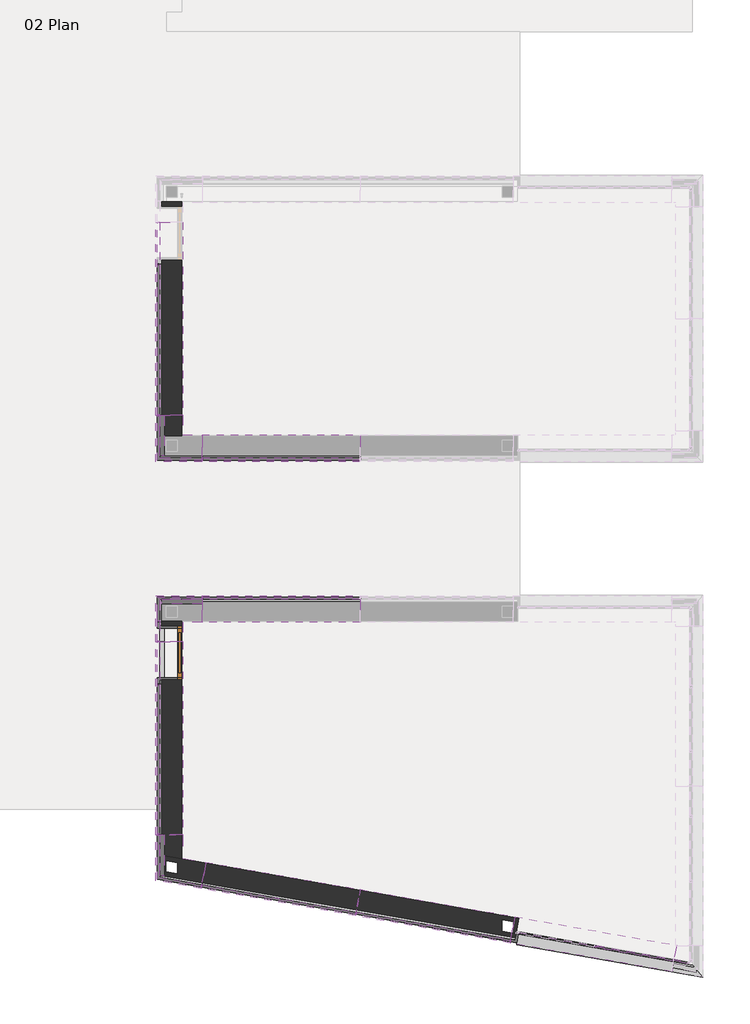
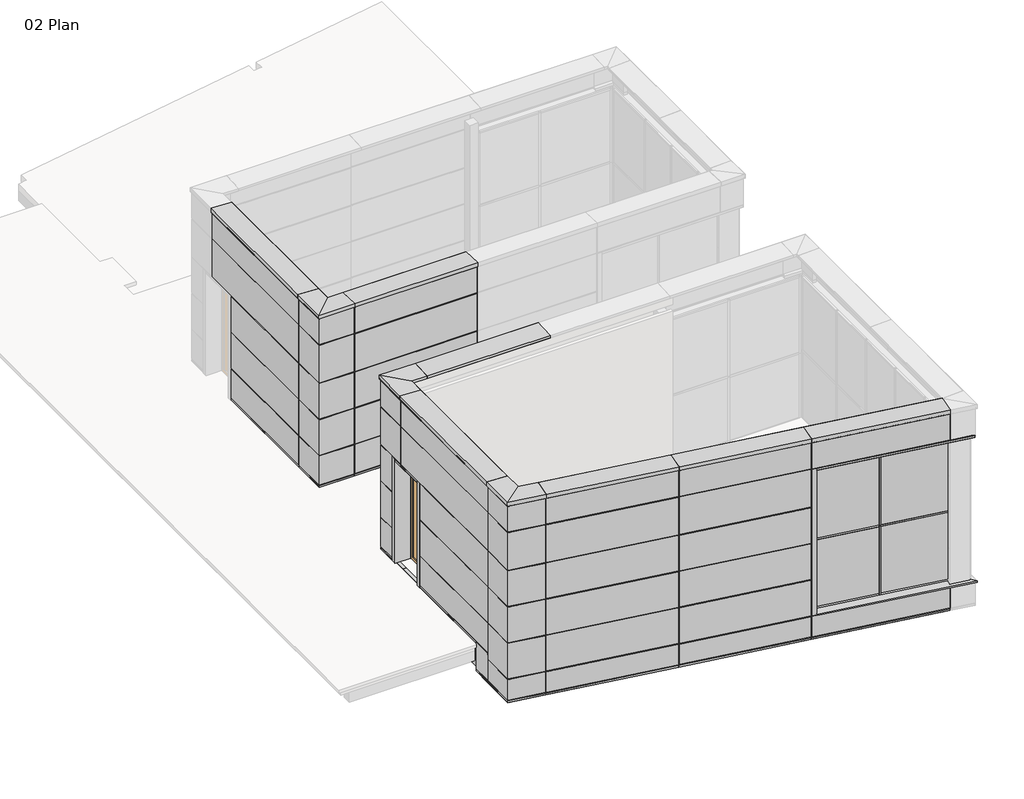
# One storey, part 1 of 6: 83 plates, 5 members, 3 walls, 1 door.
"""IFC4 building model written with IfcOpenShell, lengths in millimetres."""

from ifc_helpers import new_model, si_unit, origin, place, context, project, spatial, faceted_brep, transform, mapped, element, save
from components import door_1100x3068mm_1200x3168mm_a6e2f689, rectangular_mullion_5477e31e, rectangular_mullion_d40b3f67, rectangular_mullion_7ea7b6c0, rectangular_mullion_fe69a189, rectangular_mullion_267ea699, plate_0497feba, plate_c64032ae, plate_0b95a8c3, plate_704d47aa, plate_30a3f86a, plate_63cc7be1, plate_6f84e525, plate_d31895c8, plate_a4e683b8, plate_559b6195, plate_d0c6d3e6, plate_29d679cd, plate_2e54694b, plate_18e4d27f, plate_6c13a71c, plate_abbbe2c7, plate_c2fd8d0c, plate_5f059f00, plate_77bf08a6, plate_66c8b1ed, plate_1f021189, plate_59370a8b, plate_b266ea8f, plate_7cec9b98, plate_5e959410, plate_d173a851, plate_34e137b8, plate_b82644d0, plate_73010683, plate_828074e9, plate_d93fc1ee, empty_system_panel_empty_88f725ae, empty_system_panel_empty_c6afd72d, empty_system_panel_empty_4dfb96b6, empty_system_panel_empty_36c81836, empty_system_panel_empty_630b4419, empty_system_panel_empty_70027ae5, empty_system_panel_empty_0722500c, empty_system_panel_empty_060dda74, empty_system_panel_empty_13eba526, empty_system_panel_empty_2dd24dd9, empty_system_panel_empty_f1e40453, empty_system_panel_empty_2387188b, empty_system_panel_empty_4aabe192, empty_system_panel_empty_150c7ecc, empty_system_panel_empty_65b73787, empty_system_panel_empty_e6763725, empty_system_panel_empty_c0a390db, system_panel_92fbf9bb, system_panel_ff6ce59d, system_panel_211c9268, system_panel_5b1b3f82

model = new_model("IFC4")

# Units and contexts
model_context = context("Model", 3, world=origin())
ifc_project = project(units=[si_unit("LENGTHUNIT", "METRE", prefix="MILLI")], contexts=[model_context])

# Site, building, storey
site = spatial("IfcSite", under=ifc_project)
building = spatial("IfcBuilding", under=site)
storey = spatial("IfcBuildingStorey", under=building, Name="02 Plan", Elevation=0.0)

# Door
placement = place(None, origin())
door_1100x3068mm_1200x3168mm_shape = door_1100x3068mm_1200x3168mm_a6e2f689(model_context)
element("IfcDoor", 1, ObjectType="Door : 1100x3068mm (1200x3168mm)", at=placement, inside=storey, context=model_context, shape_type="MappedRepresentation", body=[
    mapped(door_1100x3068mm_1200x3168mm_shape, transform((-3774.3384937, -7564.4104565, 0.0), x_axis=(0.0, 1.0, 0.0), y_axis=(-1.0, 0.0, 0.0), z_axis=(0.0, 0.0, 1.0))),
])

# Members
rectangular_mullion_shape = rectangular_mullion_5477e31e(model_context)
element("IfcMember", 2, ObjectType="Rectangular Mullion : Mullion_Curtain Wall_Generic Showcase_50x100mm", at=placement, inside=storey, context=model_context, shape_type="MappedRepresentation", body=[
    mapped(rectangular_mullion_shape, transform((5779.3352903, -14227.111819, -100.0), x_axis=(0.0, 0.0, -1.0), y_axis=(0.17364817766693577, 0.9848077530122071, 0.0), z_axis=(0.9848077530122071, -0.17364817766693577, 0.0))),
])
rectangular_mullion_2_shape = rectangular_mullion_d40b3f67(model_context)
element("IfcMember", 3, ObjectType="Rectangular Mullion : Mullion_Curtain Wall_Generic Showcase_50x50mm", at=placement, inside=storey, context=model_context, shape_type="MappedRepresentation", body=[
    mapped(rectangular_mullion_2_shape, transform((5803.9554841, -14231.4530234, -100.0), x_axis=(-0.984807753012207, 0.17364817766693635, 0.0), y_axis=(0.17364817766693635, 0.984807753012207, 0.0), z_axis=(0.0, 0.0, -1.0))),
])
rectangular_mullion_3_shape = rectangular_mullion_7ea7b6c0(model_context)
element("IfcMember", 4, ObjectType="Rectangular Mullion : Mullion_Curtain Wall_Generic Showcase_50x50mm", at=placement, inside=storey, context=model_context, shape_type="MappedRepresentation", body=[
    mapped(rectangular_mullion_3_shape, transform((5803.9554841, -14231.4530234, 2075.0), x_axis=(-0.984807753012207, 0.17364817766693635, 0.0), y_axis=(0.17364817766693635, 0.984807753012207, 0.0), z_axis=(0.0, 0.0, -1.0))),
])
rectangular_mullion_4_shape = rectangular_mullion_fe69a189(model_context)
element("IfcMember", 5, ObjectType="Rectangular Mullion : Mullion_Curtain Wall_Generic Showcase_50x50mm", at=placement, inside=storey, context=model_context, shape_type="MappedRepresentation", body=[
    mapped(rectangular_mullion_4_shape, transform((5828.5756779, -14235.7942279, 2075.0), x_axis=(0.0, 0.0, 1.0), y_axis=(0.17364817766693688, 0.9848077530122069, 0.0), z_axis=(-0.9848077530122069, 0.17364817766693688, 0.0))),
])
rectangular_mullion_5_shape = rectangular_mullion_267ea699(model_context)
element("IfcMember", 6, ObjectType="Rectangular Mullion : Mullion_Curtain Wall_Generic Showcase_50x50mm", at=placement, inside=storey, context=model_context, shape_type="MappedRepresentation", body=[
    mapped(rectangular_mullion_5_shape, transform((5828.5756779, -14235.7942279, 4350.0), x_axis=(0.0, 0.0, 1.0), y_axis=(0.17364817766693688, 0.9848077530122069, 0.0), z_axis=(-0.9848077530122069, 0.17364817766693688, 0.0))),
])

# Plates
plate_shape = plate_0497feba(model_context)
element("IfcPlate", 7, ObjectType="Trimo_Qbiss Screen_L Corner Panel-HORIZONTAL : HR - B", at=placement, inside=storey, context=model_context, shape_type="MappedRepresentation", body=[
    mapped(plate_shape, transform((-3542.0971598, -12685.0344404, -750.0), x_axis=(-0.9848077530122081, 0.1736481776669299, 0.0), y_axis=(-0.1736481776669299, -0.9848077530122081, 0.0), z_axis=(0.0, 0.0, 1.0))),
])
plate_2_shape = plate_c64032ae(model_context)
element("IfcPlate", 8, ObjectType="Trimo_Qbiss Screen_L Corner Panel-HORIZONTAL : HR - B", at=placement, inside=storey, context=model_context, shape_type="MappedRepresentation", body=[
    mapped(plate_2_shape, transform((-3542.0971598, -12685.0344404, -100.0), x_axis=(-0.9848077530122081, 0.1736481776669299, 0.0), y_axis=(-0.1736481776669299, -0.9848077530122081, 0.0), z_axis=(0.0, 0.0, 1.0))),
])
element("IfcPlate", 9, ObjectType="Trimo_Qbiss Screen_L Corner Panel-HORIZONTAL : HR - B", at=placement, inside=storey, context=model_context, shape_type="MappedRepresentation", body=[
    mapped(plate_2_shape, transform((-3542.0971598, -12685.0344404, 1012.5), x_axis=(-0.9848077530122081, 0.1736481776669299, 0.0), y_axis=(-0.1736481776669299, -0.9848077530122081, 0.0), z_axis=(0.0, 0.0, 1.0))),
])
element("IfcPlate", 10, ObjectType="Trimo_Qbiss Screen_L Corner Panel-HORIZONTAL : HR - B", at=placement, inside=storey, context=model_context, shape_type="MappedRepresentation", body=[
    mapped(plate_2_shape, transform((-3542.0971598, -12685.0344404, 2125.0), x_axis=(-0.9848077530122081, 0.1736481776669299, 0.0), y_axis=(-0.1736481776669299, -0.9848077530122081, 0.0), z_axis=(0.0, 0.0, 1.0))),
])
plate_3_shape = plate_0b95a8c3(model_context)
element("IfcPlate", 11, ObjectType="Trimo_Qbiss Screen_L Corner Panel-HORIZONTAL : HR - B", at=placement, inside=storey, context=model_context, shape_type="MappedRepresentation", body=[
    mapped(plate_3_shape, transform((-3999.3384937, -6630.6604565, 1012.5), x_axis=(0.0, 1.0, 0.0), y_axis=(-1.0, 0.0, 0.0), z_axis=(0.0, 0.0, 1.0))),
])
element("IfcPlate", 12, ObjectType="Trimo_Qbiss Screen_L Corner Panel-HORIZONTAL : HR - B", at=placement, inside=storey, context=model_context, shape_type="MappedRepresentation", body=[
    mapped(plate_3_shape, transform((-3999.3384937, -6630.6604565, 2125.0), x_axis=(0.0, 1.0, 0.0), y_axis=(-1.0, 0.0, 0.0), z_axis=(0.0, 0.0, 1.0))),
])
plate_4_shape = plate_704d47aa(model_context)
element("IfcPlate", 13, ObjectType="Trimo_Qbiss Screen_L Corner Panel-HORIZONTAL : HR - B", at=placement, inside=storey, context=model_context, shape_type="MappedRepresentation", body=[
    mapped(plate_4_shape, transform((-3542.0971598, -12685.0344404, 3237.5), x_axis=(-0.9848077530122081, 0.1736481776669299, 0.0), y_axis=(-0.1736481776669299, -0.9848077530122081, 0.0), z_axis=(0.0, 0.0, 1.0))),
])
plate_5_shape = plate_30a3f86a(model_context)
element("IfcPlate", 14, ObjectType="Trimo_Qbiss Screen_L Corner Panel-HORIZONTAL : HR - B", at=placement, inside=storey, context=model_context, shape_type="MappedRepresentation", body=[
    mapped(plate_5_shape, transform((-3542.0971598, -12685.0344404, 4410.0), x_axis=(-0.9848077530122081, 0.1736481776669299, 0.0), y_axis=(-0.1736481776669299, -0.9848077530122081, 0.0), z_axis=(0.0, 0.0, 1.0))),
])
plate_6_shape = plate_63cc7be1(model_context)
element("IfcPlate", 15, ObjectType="Trimo_Qbiss Screen_L Corner Panel-HORIZONTAL : HR - B", at=placement, inside=storey, context=model_context, shape_type="MappedRepresentation", body=[
    mapped(plate_6_shape, transform((-3999.3384937, -6860.6604565, 4410.0), x_axis=(0.0, 1.0, 0.0), y_axis=(-1.0, 0.0, 0.0), z_axis=(0.0, 0.0, 1.0))),
])
plate_7_shape = plate_6f84e525(model_context)
element("IfcPlate", 16, ObjectType="Trimo_Qbiss Screen_L Corner Panel-HORIZONTAL : HR - B", at=placement, inside=storey, context=model_context, shape_type="MappedRepresentation", body=[
    mapped(plate_7_shape, transform((-3999.3384937, -6860.6604565, 3237.5), x_axis=(0.0, 1.0, 0.0), y_axis=(-1.0, 0.0, 0.0), z_axis=(0.0, 0.0, 1.0))),
])
element("IfcPlate", 17, ObjectType="Trimo_Qbiss Screen_L Corner Panel-HORIZONTAL : HR - B", at=placement, inside=storey, context=model_context, shape_type="MappedRepresentation", body=[
    mapped(plate_7_shape, transform((-3543.0884937, -3104.4104565, 3237.5), x_axis=(-1.0, 0.0, 0.0), y_axis=(0.0, -1.0, 0.0), z_axis=(0.0, 0.0, 1.0))),
])
plate_8_shape = plate_d31895c8(model_context)
element("IfcPlate", 18, ObjectType="Trimo_Qbiss Screen_L Corner Panel-HORIZONTAL : HR - B", at=placement, inside=storey, context=model_context, shape_type="MappedRepresentation", body=[
    mapped(plate_8_shape, transform((-3543.0884937, -3104.4104565, 2125.0), x_axis=(-1.0, 0.0, 0.0), y_axis=(0.0, -1.0, 0.0), z_axis=(0.0, 0.0, 1.0))),
])
element("IfcPlate", 19, ObjectType="Trimo_Qbiss Screen_L Corner Panel-HORIZONTAL : HR - B", at=placement, inside=storey, context=model_context, shape_type="MappedRepresentation", body=[
    mapped(plate_8_shape, transform((-3543.0884937, -3104.4104565, 1012.5), x_axis=(-1.0, 0.0, 0.0), y_axis=(0.0, -1.0, 0.0), z_axis=(0.0, 0.0, 1.0))),
])
plate_9_shape = plate_a4e683b8(model_context)
element("IfcPlate", 20, ObjectType="Trimo_Qbiss Screen_L Corner Panel-HORIZONTAL : HR - B", at=placement, inside=storey, context=model_context, shape_type="MappedRepresentation", body=[
    mapped(plate_9_shape, transform((-3999.3384937, -6630.6604565, 100.0), x_axis=(0.0, 1.0, 0.0), y_axis=(-1.0, 0.0, 0.0), z_axis=(0.0, 0.0, 1.0))),
])
plate_10_shape = plate_559b6195(model_context)
element("IfcPlate", 21, ObjectType="Trimo_Qbiss Screen_L Corner Panel-HORIZONTAL : HR - B", at=placement, inside=storey, context=model_context, shape_type="MappedRepresentation", body=[
    mapped(plate_10_shape, transform((-3543.0884937, -3104.4104565, 100.0), x_axis=(-1.0, 0.0, 0.0), y_axis=(0.0, -1.0, 0.0), z_axis=(0.0, 0.0, 1.0))),
])
element("IfcPlate", 22, ObjectType="Trimo_Qbiss Screen_L Corner Panel-HORIZONTAL : HR - B", at=placement, inside=storey, context=model_context, shape_type="MappedRepresentation", body=[
    mapped(plate_6_shape, transform((-3543.0884937, -3104.4104565, 4410.0), x_axis=(-1.0, 0.0, 0.0), y_axis=(0.0, -1.0, 0.0), z_axis=(0.0, 0.0, 1.0))),
])
plate_11_shape = plate_d0c6d3e6(model_context)
element("IfcPlate", 23, ObjectType="Trimo_Qbiss Screen_Normal Panel-HORIZONTAL : HR - B", at=placement, inside=storey, context=model_context, shape_type="MappedRepresentation", body=[
    mapped(plate_11_shape, transform((5735.116969, -14320.8575971, -750.0), x_axis=(-0.9848077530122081, 0.1736481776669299, 0.0), y_axis=(-0.1736481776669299, -0.9848077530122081, 0.0), z_axis=(0.0, 0.0, 1.0))),
])
plate_12_shape = plate_29d679cd(model_context)
element("IfcPlate", 24, ObjectType="Trimo_Qbiss Screen_Normal Panel-HORIZONTAL : HR - B", at=placement, inside=storey, context=model_context, shape_type="MappedRepresentation", body=[
    mapped(plate_12_shape, transform((2157.2681063, -13689.9863097, -750.0), x_axis=(-0.9848077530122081, 0.1736481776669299, 0.0), y_axis=(-0.1736481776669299, -0.9848077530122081, 0.0), z_axis=(0.0, 0.0, 1.0))),
])
element("IfcPlate", 25, ObjectType="Trimo_Qbiss Screen_Normal Panel-HORIZONTAL : HR - B", at=placement, inside=storey, context=model_context, shape_type="MappedRepresentation", body=[
    mapped(plate_12_shape, transform((-1337.4811819, -13073.7677194, -750.0), x_axis=(-0.9848077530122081, 0.1736481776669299, 0.0), y_axis=(-0.1736481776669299, -0.9848077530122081, 0.0), z_axis=(0.0, 0.0, 1.0))),
])
plate_13_shape = plate_2e54694b(model_context)
element("IfcPlate", 26, ObjectType="Trimo_Qbiss Screen_Normal Panel-HORIZONTAL : HR - B", at=placement, inside=storey, context=model_context, shape_type="MappedRepresentation", body=[
    mapped(plate_13_shape, transform((2157.2681063, -13689.9863097, -100.0), x_axis=(-0.9848077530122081, 0.1736481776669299, 0.0), y_axis=(-0.1736481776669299, -0.9848077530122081, 0.0), z_axis=(0.0, 0.0, 1.0))),
])
element("IfcPlate", 27, ObjectType="Trimo_Qbiss Screen_Normal Panel-HORIZONTAL : HR - B", at=placement, inside=storey, context=model_context, shape_type="MappedRepresentation", body=[
    mapped(plate_13_shape, transform((-1337.4811819, -13073.7677194, -100.0), x_axis=(-0.9848077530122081, 0.1736481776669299, 0.0), y_axis=(-0.1736481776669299, -0.9848077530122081, 0.0), z_axis=(0.0, 0.0, 1.0))),
])
element("IfcPlate", 28, ObjectType="Trimo_Qbiss Screen_Normal Panel-HORIZONTAL : HR - B", at=placement, inside=storey, context=model_context, shape_type="MappedRepresentation", body=[
    mapped(plate_13_shape, transform((2157.2681063, -13689.9863097, 2125.0), x_axis=(-0.9848077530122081, 0.1736481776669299, 0.0), y_axis=(-0.1736481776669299, -0.9848077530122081, 0.0), z_axis=(0.0, 0.0, 1.0))),
])
element("IfcPlate", 29, ObjectType="Trimo_Qbiss Screen_Normal Panel-HORIZONTAL : HR - B", at=placement, inside=storey, context=model_context, shape_type="MappedRepresentation", body=[
    mapped(plate_13_shape, transform((-1337.4811819, -13073.7677194, 2125.0), x_axis=(-0.9848077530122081, 0.1736481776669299, 0.0), y_axis=(-0.1736481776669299, -0.9848077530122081, 0.0), z_axis=(0.0, 0.0, 1.0))),
])
element("IfcPlate", 30, ObjectType="Trimo_Qbiss Screen_Normal Panel-HORIZONTAL : HR - B", at=placement, inside=storey, context=model_context, shape_type="MappedRepresentation", body=[
    mapped(plate_13_shape, transform((2157.2681063, -13689.9863097, 1012.5), x_axis=(-0.9848077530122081, 0.1736481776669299, 0.0), y_axis=(-0.1736481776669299, -0.9848077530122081, 0.0), z_axis=(0.0, 0.0, 1.0))),
])
element("IfcPlate", 31, ObjectType="Trimo_Qbiss Screen_Normal Panel-HORIZONTAL : HR - B", at=placement, inside=storey, context=model_context, shape_type="MappedRepresentation", body=[
    mapped(plate_13_shape, transform((-1337.4811819, -13073.7677194, 1012.5), x_axis=(-0.9848077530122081, 0.1736481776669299, 0.0), y_axis=(-0.1736481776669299, -0.9848077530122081, 0.0), z_axis=(0.0, 0.0, 1.0))),
])
plate_14_shape = plate_18e4d27f(model_context)
element("IfcPlate", 32, ObjectType="Trimo_Qbiss Screen_Normal Panel-HORIZONTAL : HR - B", at=placement, inside=storey, context=model_context, shape_type="MappedRepresentation", body=[
    mapped(plate_14_shape, transform((2157.2681063, -13689.9863097, 4410.0), x_axis=(-0.9848077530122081, 0.1736481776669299, 0.0), y_axis=(-0.1736481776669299, -0.9848077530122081, 0.0), z_axis=(0.0, 0.0, 1.0))),
])
element("IfcPlate", 33, ObjectType="Trimo_Qbiss Screen_Normal Panel-HORIZONTAL : HR - B", at=placement, inside=storey, context=model_context, shape_type="MappedRepresentation", body=[
    mapped(plate_14_shape, transform((-1337.4811819, -13073.7677194, 4410.0), x_axis=(-0.9848077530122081, 0.1736481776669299, 0.0), y_axis=(-0.1736481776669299, -0.9848077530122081, 0.0), z_axis=(0.0, 0.0, 1.0))),
])
plate_15_shape = plate_6c13a71c(model_context)
element("IfcPlate", 34, ObjectType="Trimo_Qbiss Screen_Normal Panel-HORIZONTAL : HR - B", at=placement, inside=storey, context=model_context, shape_type="MappedRepresentation", body=[
    mapped(plate_15_shape, transform((5735.116969, -14320.8575971, 4410.0), x_axis=(-0.9848077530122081, 0.1736481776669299, 0.0), y_axis=(-0.1736481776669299, -0.9848077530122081, 0.0), z_axis=(0.0, 0.0, 1.0))),
])
plate_16_shape = plate_abbbe2c7(model_context)
element("IfcPlate", 35, ObjectType="Trimo_Qbiss Screen_Normal Panel-HORIZONTAL : HR - B", at=placement, inside=storey, context=model_context, shape_type="MappedRepresentation", body=[
    mapped(plate_16_shape, transform((2157.2681063, -13689.9863097, 3237.5), x_axis=(-0.9848077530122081, 0.1736481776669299, 0.0), y_axis=(-0.1736481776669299, -0.9848077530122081, 0.0), z_axis=(0.0, 0.0, 1.0))),
])
element("IfcPlate", 36, ObjectType="Trimo_Qbiss Screen_Normal Panel-HORIZONTAL : HR - B", at=placement, inside=storey, context=model_context, shape_type="MappedRepresentation", body=[
    mapped(plate_16_shape, transform((-1337.4811819, -13073.7677194, 3237.5), x_axis=(-0.9848077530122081, 0.1736481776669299, 0.0), y_axis=(-0.1736481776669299, -0.9848077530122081, 0.0), z_axis=(0.0, 0.0, 1.0))),
])
plate_17_shape = plate_c2fd8d0c(model_context)
element("IfcPlate", 37, ObjectType="Trimo_Qbiss Screen_Normal Panel-HORIZONTAL : HR - B", at=placement, inside=storey, context=model_context, shape_type="MappedRepresentation", body=[
    mapped(plate_17_shape, transform((-3999.3384937, -11365.1154381, -750.0), x_axis=(0.0, 1.0, 0.0), y_axis=(-1.0, 0.0, 0.0), z_axis=(0.0, 0.0, 1.0))),
])
plate_18_shape = plate_5f059f00(model_context)
element("IfcPlate", 38, ObjectType="Trimo_Qbiss Screen_Normal Panel-HORIZONTAL : HR - B", at=placement, inside=storey, context=model_context, shape_type="MappedRepresentation", body=[
    mapped(plate_18_shape, transform((-3999.3384937, -9973.8654381, 100.0), x_axis=(0.0, 1.0, 0.0), y_axis=(-1.0, 0.0, 0.0), z_axis=(0.0, 0.0, 1.0))),
])
plate_19_shape = plate_77bf08a6(model_context)
element("IfcPlate", 39, ObjectType="Trimo_Qbiss Screen_Normal Panel-HORIZONTAL : HR - B", at=placement, inside=storey, context=model_context, shape_type="MappedRepresentation", body=[
    mapped(plate_19_shape, transform((-3999.3384937, -9496.3654381, 4410.0), x_axis=(0.0, 1.0, 0.0), y_axis=(-1.0, 0.0, 0.0), z_axis=(0.0, 0.0, 1.0))),
])
plate_20_shape = plate_66c8b1ed(model_context)
element("IfcPlate", 40, ObjectType="Trimo_Qbiss Screen_Normal Panel-HORIZONTAL : HR - B", at=placement, inside=storey, context=model_context, shape_type="MappedRepresentation", body=[
    mapped(plate_20_shape, transform((-1299.3384937, -6404.4104565, 100.0), x_axis=(1.0, 0.0, 0.0), y_axis=(0.0, 1.0, 0.0), z_axis=(0.0, 0.0, 1.0))),
])
element("IfcPlate", 41, ObjectType="Trimo_Qbiss Screen_Normal Panel-HORIZONTAL : HR - B", at=placement, inside=storey, context=model_context, shape_type="MappedRepresentation", body=[
    mapped(plate_20_shape, transform((-1299.3384937, -3104.4104565, 100.0), x_axis=(-1.0, 0.0, 0.0), y_axis=(0.0, -1.0, 0.0), z_axis=(0.0, 0.0, 1.0))),
])
plate_21_shape = plate_1f021189(model_context)
element("IfcPlate", 42, ObjectType="Trimo_Qbiss Screen_Normal Panel-HORIZONTAL : HR - B", at=placement, inside=storey, context=model_context, shape_type="MappedRepresentation", body=[
    mapped(plate_21_shape, transform((-1299.3384937, -6404.4104565, 4410.0), x_axis=(1.0, 0.0, 0.0), y_axis=(0.0, 1.0, 0.0), z_axis=(0.0, 0.0, 1.0))),
])
element("IfcPlate", 43, ObjectType="Trimo_Qbiss Screen_Normal Panel-HORIZONTAL : HR - B", at=placement, inside=storey, context=model_context, shape_type="MappedRepresentation", body=[
    mapped(plate_21_shape, transform((-1299.3384937, -3104.4104565, 4410.0), x_axis=(-1.0, 0.0, 0.0), y_axis=(0.0, -1.0, 0.0), z_axis=(0.0, 0.0, 1.0))),
])
plate_22_shape = plate_59370a8b(model_context)
element("IfcPlate", 44, ObjectType="Trimo_Qbiss Screen_Normal Panel-HORIZONTAL : HR - B", at=placement, inside=storey, context=model_context, shape_type="MappedRepresentation", body=[
    mapped(plate_22_shape, transform((-3999.3384937, -9496.3654381, 3237.5), x_axis=(0.0, 1.0, 0.0), y_axis=(-1.0, 0.0, 0.0), z_axis=(0.0, 0.0, 1.0))),
])
plate_23_shape = plate_b266ea8f(model_context)
element("IfcPlate", 45, ObjectType="Trimo_Qbiss Screen_Normal Panel-HORIZONTAL : HR - B", at=placement, inside=storey, context=model_context, shape_type="MappedRepresentation", body=[
    mapped(plate_23_shape, transform((-3999.3384937, -9973.8654381, 2125.0), x_axis=(0.0, 1.0, 0.0), y_axis=(-1.0, 0.0, 0.0), z_axis=(0.0, 0.0, 1.0))),
])
element("IfcPlate", 46, ObjectType="Trimo_Qbiss Screen_Normal Panel-HORIZONTAL : HR - B", at=placement, inside=storey, context=model_context, shape_type="MappedRepresentation", body=[
    mapped(plate_23_shape, transform((-3999.3384937, -9973.8654381, 1012.5), x_axis=(0.0, 1.0, 0.0), y_axis=(-1.0, 0.0, 0.0), z_axis=(0.0, 0.0, 1.0))),
])
plate_24_shape = plate_7cec9b98(model_context)
element("IfcPlate", 47, ObjectType="Trimo_Qbiss Screen_Normal Panel-HORIZONTAL : HR - B", at=placement, inside=storey, context=model_context, shape_type="MappedRepresentation", body=[
    mapped(plate_24_shape, transform((-1299.3384937, -6404.4104565, 3237.5), x_axis=(1.0, 0.0, 0.0), y_axis=(0.0, 1.0, 0.0), z_axis=(0.0, 0.0, 1.0))),
])
element("IfcPlate", 48, ObjectType="Trimo_Qbiss Screen_Normal Panel-HORIZONTAL : HR - B", at=placement, inside=storey, context=model_context, shape_type="MappedRepresentation", body=[
    mapped(plate_24_shape, transform((-1299.3384937, -3104.4104565, 3237.5), x_axis=(-1.0, 0.0, 0.0), y_axis=(0.0, -1.0, 0.0), z_axis=(0.0, 0.0, 1.0))),
])
plate_25_shape = plate_5e959410(model_context)
element("IfcPlate", 49, ObjectType="Trimo_Qbiss Screen_Normal Panel-HORIZONTAL : HR - B", at=placement, inside=storey, context=model_context, shape_type="MappedRepresentation", body=[
    mapped(plate_25_shape, transform((-1299.3384937, -6404.4104565, 2125.0), x_axis=(1.0, 0.0, 0.0), y_axis=(0.0, 1.0, 0.0), z_axis=(0.0, 0.0, 1.0))),
])
element("IfcPlate", 50, ObjectType="Trimo_Qbiss Screen_Normal Panel-HORIZONTAL : HR - B", at=placement, inside=storey, context=model_context, shape_type="MappedRepresentation", body=[
    mapped(plate_25_shape, transform((-1299.3384937, -6404.4104565, 1012.5), x_axis=(1.0, 0.0, 0.0), y_axis=(0.0, 1.0, 0.0), z_axis=(0.0, 0.0, 1.0))),
])
element("IfcPlate", 51, ObjectType="Trimo_Qbiss Screen_Normal Panel-HORIZONTAL : HR - B", at=placement, inside=storey, context=model_context, shape_type="MappedRepresentation", body=[
    mapped(plate_25_shape, transform((-1299.3384937, -3104.4104565, 1012.5), x_axis=(-1.0, 0.0, 0.0), y_axis=(0.0, -1.0, 0.0), z_axis=(0.0, 0.0, 1.0))),
])
element("IfcPlate", 52, ObjectType="Trimo_Qbiss Screen_Normal Panel-HORIZONTAL : HR - B", at=placement, inside=storey, context=model_context, shape_type="MappedRepresentation", body=[
    mapped(plate_25_shape, transform((-1299.3384937, -3104.4104565, 2125.0), x_axis=(-1.0, 0.0, 0.0), y_axis=(0.0, -1.0, 0.0), z_axis=(0.0, 0.0, 1.0))),
])
plate_26_shape = plate_d173a851(model_context)
element("IfcPlate", 53, ObjectType="Trimo_Qbiss Screen_Normal Panel-HORIZONTAL : HR - B", at=placement, inside=storey, context=model_context, shape_type="MappedRepresentation", body=[
    mapped(plate_26_shape, transform((-3999.3384937, -481.9104565, 100.0), x_axis=(0.0, 1.0, 0.0), y_axis=(-1.0, 0.0, 0.0), z_axis=(0.0, 0.0, 1.0))),
])
plate_27_shape = plate_34e137b8(model_context)
element("IfcPlate", 54, ObjectType="Trimo_Qbiss Screen_Normal Panel-HORIZONTAL : HR - B", at=placement, inside=storey, context=model_context, shape_type="MappedRepresentation", body=[
    mapped(plate_27_shape, transform((-3999.3384937, -481.9104565, 1012.5), x_axis=(0.0, 1.0, 0.0), y_axis=(-1.0, 0.0, 0.0), z_axis=(0.0, 0.0, 1.0))),
])
element("IfcPlate", 55, ObjectType="Trimo_Qbiss Screen_Normal Panel-HORIZONTAL : HR - B", at=placement, inside=storey, context=model_context, shape_type="MappedRepresentation", body=[
    mapped(plate_27_shape, transform((-3999.3384937, -481.9104565, 2125.0), x_axis=(0.0, 1.0, 0.0), y_axis=(-1.0, 0.0, 0.0), z_axis=(0.0, 0.0, 1.0))),
])
plate_28_shape = plate_b82644d0(model_context)
element("IfcPlate", 56, ObjectType="Trimo_Qbiss Screen_Normal Panel-HORIZONTAL : HR - B", at=placement, inside=storey, context=model_context, shape_type="MappedRepresentation", body=[
    mapped(plate_28_shape, transform((-3999.3384937, -4.4104565, 3237.5), x_axis=(0.0, 1.0, 0.0), y_axis=(-1.0, 0.0, 0.0), z_axis=(0.0, 0.0, 1.0))),
])
plate_29_shape = plate_73010683(model_context)
element("IfcPlate", 57, ObjectType="Trimo_Qbiss Screen_Normal Panel-HORIZONTAL : HR - B", at=placement, inside=storey, context=model_context, shape_type="MappedRepresentation", body=[
    mapped(plate_29_shape, transform((-3999.3384937, -4.4104565, 4410.0), x_axis=(0.0, 1.0, 0.0), y_axis=(-1.0, 0.0, 0.0), z_axis=(0.0, 0.0, 1.0))),
])
plate_30_shape = plate_828074e9(model_context)
element("IfcPlate", 58, ObjectType="Trimo_Qbiss Screen_Wall Opening Trims-HORIZONTAL : HR - B", at=placement, inside=storey, context=model_context, shape_type="MappedRepresentation", body=[
    mapped(plate_30_shape, transform((5735.116969, -14320.8575971, -100.0), x_axis=(-0.9848077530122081, 0.1736481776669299, 0.0), y_axis=(-0.1736481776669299, -0.9848077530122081, 0.0), z_axis=(0.0, 0.0, 1.0))),
])
plate_31_shape = plate_d93fc1ee(model_context)
element("IfcPlate", 59, ObjectType="Trimo_Qbiss Screen_Wall Opening Trims-HORIZONTAL : HR - B", at=placement, inside=storey, context=model_context, shape_type="MappedRepresentation", body=[
    mapped(plate_31_shape, transform((-3999.3384937, -7564.4104565, 0.0), x_axis=(0.0, 1.0, 0.0), y_axis=(-1.0, 0.0, 0.0), z_axis=(0.0, 0.0, 1.0))),
])
empty_system_panel_empty_shape = empty_system_panel_empty_88f725ae(model_context)
element("IfcPlate", 60, ObjectType="Empty System Panel : Empty", at=placement, inside=storey, context=model_context, shape_type="MappedRepresentation", body=[
    mapped(empty_system_panel_empty_shape, transform((-3999.3384937, -12140.1154381, 100.0), x_axis=(0.0, 1.0, 0.0), y_axis=(-1.0, 0.0, 0.0), z_axis=(0.0, 0.0, 1.0))),
])
empty_system_panel_empty_2_shape = empty_system_panel_empty_c6afd72d(model_context)
element("IfcPlate", 61, ObjectType="Empty System Panel : Empty", at=placement, inside=storey, context=model_context, shape_type="MappedRepresentation", body=[
    mapped(empty_system_panel_empty_2_shape, transform((-3999.3384937, -12140.1154381, 2125.0), x_axis=(0.0, 1.0, 0.0), y_axis=(-1.0, 0.0, 0.0), z_axis=(0.0, 0.0, 1.0))),
])
element("IfcPlate", 62, ObjectType="Empty System Panel : Empty", at=placement, inside=storey, context=model_context, shape_type="MappedRepresentation", body=[
    mapped(empty_system_panel_empty_2_shape, transform((-3999.3384937, -12140.1154381, 1012.5), x_axis=(0.0, 1.0, 0.0), y_axis=(-1.0, 0.0, 0.0), z_axis=(0.0, 0.0, 1.0))),
])
empty_system_panel_empty_3_shape = empty_system_panel_empty_4dfb96b6(model_context)
element("IfcPlate", 63, ObjectType="Empty System Panel : Empty", at=placement, inside=storey, context=model_context, shape_type="MappedRepresentation", body=[
    mapped(empty_system_panel_empty_3_shape, transform((-3543.0884937, -6404.4104565, 2125.0), x_axis=(1.0, 0.0, 0.0), y_axis=(0.0, 1.0, 0.0), z_axis=(0.0, 0.0, 1.0))),
])
element("IfcPlate", 64, ObjectType="Empty System Panel : Empty", at=placement, inside=storey, context=model_context, shape_type="MappedRepresentation", body=[
    mapped(empty_system_panel_empty_3_shape, transform((-3543.0884937, -6404.4104565, 1012.5), x_axis=(1.0, 0.0, 0.0), y_axis=(0.0, 1.0, 0.0), z_axis=(0.0, 0.0, 1.0))),
])
element("IfcPlate", 65, ObjectType="Empty System Panel : Empty", at=placement, inside=storey, context=model_context, shape_type="MappedRepresentation", body=[
    mapped(empty_system_panel_empty_3_shape, transform((-3999.3384937, -2648.1604565, 2125.0), x_axis=(0.0, 1.0, 0.0), y_axis=(-1.0, 0.0, 0.0), z_axis=(0.0, 0.0, 1.0))),
])
element("IfcPlate", 66, ObjectType="Empty System Panel : Empty", at=placement, inside=storey, context=model_context, shape_type="MappedRepresentation", body=[
    mapped(empty_system_panel_empty_3_shape, transform((-3999.3384937, -2648.1604565, 1012.5), x_axis=(0.0, 1.0, 0.0), y_axis=(-1.0, 0.0, 0.0), z_axis=(0.0, 0.0, 1.0))),
])
empty_system_panel_empty_4_shape = empty_system_panel_empty_36c81836(model_context)
element("IfcPlate", 67, ObjectType="Empty System Panel : Empty", at=placement, inside=storey, context=model_context, shape_type="MappedRepresentation", body=[
    mapped(empty_system_panel_empty_4_shape, transform((-3999.3384937, -2648.1604565, 100.0), x_axis=(0.0, 1.0, 0.0), y_axis=(-1.0, 0.0, 0.0), z_axis=(0.0, 0.0, 1.0))),
])
element("IfcPlate", 68, ObjectType="Empty System Panel : Empty", at=placement, inside=storey, context=model_context, shape_type="MappedRepresentation", body=[
    mapped(empty_system_panel_empty_4_shape, transform((-3543.0884937, -6404.4104565, 100.0), x_axis=(1.0, 0.0, 0.0), y_axis=(0.0, 1.0, 0.0), z_axis=(0.0, 0.0, 1.0))),
])
empty_system_panel_empty_5_shape = empty_system_panel_empty_630b4419(model_context)
element("IfcPlate", 69, ObjectType="Empty System Panel : Empty", at=placement, inside=storey, context=model_context, shape_type="MappedRepresentation", body=[
    mapped(empty_system_panel_empty_5_shape, transform((-3543.0884937, -6404.4104565, -750.0), x_axis=(1.0, 0.0, 0.0), y_axis=(0.0, 1.0, 0.0), z_axis=(0.0, 0.0, 1.0))),
])
element("IfcPlate", 70, ObjectType="Empty System Panel : Empty", at=placement, inside=storey, context=model_context, shape_type="MappedRepresentation", body=[
    mapped(empty_system_panel_empty_5_shape, transform((-3543.0884937, -3104.4104565, -750.0), x_axis=(-1.0, 0.0, 0.0), y_axis=(0.0, -1.0, 0.0), z_axis=(0.0, 0.0, 1.0))),
])
empty_system_panel_empty_6_shape = empty_system_panel_empty_70027ae5(model_context)
element("IfcPlate", 71, ObjectType="Empty System Panel : Empty", at=placement, inside=storey, context=model_context, shape_type="MappedRepresentation", body=[
    mapped(empty_system_panel_empty_6_shape, transform((-3543.0884937, -6404.4104565, 4410.0), x_axis=(1.0, 0.0, 0.0), y_axis=(0.0, 1.0, 0.0), z_axis=(0.0, 0.0, 1.0))),
])
element("IfcPlate", 72, ObjectType="Empty System Panel : Empty", at=placement, inside=storey, context=model_context, shape_type="MappedRepresentation", body=[
    mapped(empty_system_panel_empty_6_shape, transform((-3999.3384937, -2648.1604565, 4410.0), x_axis=(0.0, 1.0, 0.0), y_axis=(-1.0, 0.0, 0.0), z_axis=(0.0, 0.0, 1.0))),
])
empty_system_panel_empty_7_shape = empty_system_panel_empty_0722500c(model_context)
element("IfcPlate", 73, ObjectType="Empty System Panel : Empty", at=placement, inside=storey, context=model_context, shape_type="MappedRepresentation", body=[
    mapped(empty_system_panel_empty_7_shape, transform((-3543.0884937, -6404.4104565, 3237.5), x_axis=(1.0, 0.0, 0.0), y_axis=(0.0, 1.0, 0.0), z_axis=(0.0, 0.0, 1.0))),
])
element("IfcPlate", 74, ObjectType="Empty System Panel : Empty", at=placement, inside=storey, context=model_context, shape_type="MappedRepresentation", body=[
    mapped(empty_system_panel_empty_7_shape, transform((-3999.3384937, -2648.1604565, 3237.5), x_axis=(0.0, 1.0, 0.0), y_axis=(-1.0, 0.0, 0.0), z_axis=(0.0, 0.0, 1.0))),
])
empty_system_panel_empty_8_shape = empty_system_panel_empty_060dda74(model_context)
element("IfcPlate", 75, ObjectType="Empty System Panel : Empty", at=placement, inside=storey, context=model_context, shape_type="MappedRepresentation", body=[
    mapped(empty_system_panel_empty_8_shape, transform((-3999.3384937, -12140.1154381, 4410.0), x_axis=(0.0, 1.0, 0.0), y_axis=(-1.0, 0.0, 0.0), z_axis=(0.0, 0.0, 1.0))),
])
empty_system_panel_empty_9_shape = empty_system_panel_empty_13eba526(model_context)
element("IfcPlate", 76, ObjectType="Empty System Panel : Empty", at=placement, inside=storey, context=model_context, shape_type="MappedRepresentation", body=[
    mapped(empty_system_panel_empty_9_shape, transform((-3999.3384937, -12140.1154381, 3237.5), x_axis=(0.0, 1.0, 0.0), y_axis=(-1.0, 0.0, 0.0), z_axis=(0.0, 0.0, 1.0))),
])
empty_system_panel_empty_10_shape = empty_system_panel_empty_2dd24dd9(model_context)
element("IfcPlate", 77, ObjectType="Empty System Panel : Empty", at=placement, inside=storey, context=model_context, shape_type="MappedRepresentation", body=[
    mapped(empty_system_panel_empty_10_shape, transform((-3999.3384937, -12140.1154381, -750.0), x_axis=(0.0, 1.0, 0.0), y_axis=(-1.0, 0.0, 0.0), z_axis=(0.0, 0.0, 1.0))),
])
empty_system_panel_empty_11_shape = empty_system_panel_empty_f1e40453(model_context)
element("IfcPlate", 78, ObjectType="Empty System Panel : Empty", at=placement, inside=storey, context=model_context, shape_type="MappedRepresentation", body=[
    mapped(empty_system_panel_empty_11_shape, transform((-3999.3384937, -9663.1604565, -750.0), x_axis=(0.0, 1.0, 0.0), y_axis=(-1.0, 0.0, 0.0), z_axis=(0.0, 0.0, 1.0))),
])
empty_system_panel_empty_12_shape = empty_system_panel_empty_2387188b(model_context)
element("IfcPlate", 79, ObjectType="Empty System Panel : Empty", at=placement, inside=storey, context=model_context, shape_type="MappedRepresentation", body=[
    mapped(empty_system_panel_empty_12_shape, transform((-3999.3384937, -6860.6604565, -750.0), x_axis=(0.0, 1.0, 0.0), y_axis=(-1.0, 0.0, 0.0), z_axis=(0.0, 0.0, 1.0))),
])
empty_system_panel_empty_13_shape = empty_system_panel_empty_4aabe192(model_context)
element("IfcPlate", 80, ObjectType="Empty System Panel : Empty", at=placement, inside=storey, context=model_context, shape_type="MappedRepresentation", body=[
    mapped(empty_system_panel_empty_13_shape, transform((-3999.3384937, -12140.1154381, 0.0), x_axis=(0.0, 1.0, 0.0), y_axis=(-1.0, 0.0, 0.0), z_axis=(0.0, 0.0, 1.0))),
])
empty_system_panel_empty_14_shape = empty_system_panel_empty_150c7ecc(model_context)
element("IfcPlate", 81, ObjectType="Empty System Panel : Empty", at=placement, inside=storey, context=model_context, shape_type="MappedRepresentation", body=[
    mapped(empty_system_panel_empty_14_shape, transform((-3999.3384937, -9663.1604565, 0.0), x_axis=(0.0, 1.0, 0.0), y_axis=(-1.0, 0.0, 0.0), z_axis=(0.0, 0.0, 1.0))),
])
empty_system_panel_empty_15_shape = empty_system_panel_empty_65b73787(model_context)
element("IfcPlate", 82, ObjectType="Empty System Panel : Empty", at=placement, inside=storey, context=model_context, shape_type="MappedRepresentation", body=[
    mapped(empty_system_panel_empty_15_shape, transform((-3999.3384937, -6630.6604565, 0.0), x_axis=(0.0, 1.0, 0.0), y_axis=(-1.0, 0.0, 0.0), z_axis=(0.0, 0.0, 1.0))),
])
empty_system_panel_empty_16_shape = empty_system_panel_empty_e6763725(model_context)
element("IfcPlate", 83, ObjectType="Empty System Panel : Empty", at=placement, inside=storey, context=model_context, shape_type="MappedRepresentation", body=[
    mapped(empty_system_panel_empty_16_shape, transform((-3999.3384937, -7794.4104565, -750.0), x_axis=(0.0, 1.0, 0.0), y_axis=(-1.0, 0.0, 0.0), z_axis=(0.0, 0.0, 1.0))),
])
empty_system_panel_empty_17_shape = empty_system_panel_empty_c0a390db(model_context)
element("IfcPlate", 84, ObjectType="Empty System Panel : Empty", at=placement, inside=storey, context=model_context, shape_type="MappedRepresentation", body=[
    mapped(empty_system_panel_empty_17_shape, transform((-1299.3384937, -6404.4104565, -750.0), x_axis=(1.0, 0.0, 0.0), y_axis=(0.0, 1.0, 0.0), z_axis=(0.0, 0.0, 1.0))),
])
element("IfcPlate", 85, ObjectType="Empty System Panel : Empty", at=placement, inside=storey, context=model_context, shape_type="MappedRepresentation", body=[
    mapped(empty_system_panel_empty_17_shape, transform((-1299.3384937, -3104.4104565, -750.0), x_axis=(-1.0, 0.0, 0.0), y_axis=(0.0, -1.0, 0.0), z_axis=(0.0, 0.0, 1.0))),
])
system_panel_shape = system_panel_92fbf9bb(model_context)
element("IfcPlate", 86, ObjectType="System Panel : Panel_Glazed_Generic Showcase_30mm", at=placement, inside=storey, context=model_context, shape_type="MappedRepresentation", body=[
    mapped(system_panel_shape, transform((4923.301001, -14076.1698774, 0.0), x_axis=(-0.984807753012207, 0.17364817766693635, 0.0), y_axis=(-0.17364817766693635, -0.984807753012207, 0.0), z_axis=(0.0, 0.0, 1.0))),
])
system_panel_2_shape = system_panel_ff6ce59d(model_context)
element("IfcPlate", 87, ObjectType="System Panel : Panel_Glazed_Generic Showcase_30mm", at=placement, inside=storey, context=model_context, shape_type="MappedRepresentation", body=[
    mapped(system_panel_2_shape, transform((4923.301001, -14076.1698774, 2100.0), x_axis=(-0.984807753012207, 0.17364817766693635, 0.0), y_axis=(-0.17364817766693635, -0.984807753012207, 0.0), z_axis=(0.0, 0.0, 1.0))),
])
system_panel_3_shape = system_panel_211c9268(model_context)
element("IfcPlate", 88, ObjectType="System Panel : Panel_Glazed_Generic Showcase_30mm", at=placement, inside=storey, context=model_context, shape_type="MappedRepresentation", body=[
    mapped(system_panel_3_shape, transform((6860.6571938, -14417.7780454, 0.0), x_axis=(-0.984807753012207, 0.17364817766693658, 0.0), y_axis=(-0.17364817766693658, -0.984807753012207, 0.0), z_axis=(0.0, 0.0, 1.0))),
])
system_panel_4_shape = system_panel_5b1b3f82(model_context)
element("IfcPlate", 89, ObjectType="System Panel : Panel_Glazed_Generic Showcase_30mm", at=placement, inside=storey, context=model_context, shape_type="MappedRepresentation", body=[
    mapped(system_panel_4_shape, transform((6860.6571938, -14417.7780454, 2100.0), x_axis=(-0.984807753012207, 0.17364817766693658, 0.0), y_axis=(-0.17364817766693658, -0.984807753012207, 0.0), z_axis=(0.0, 0.0, 1.0))),
])

# Walls
element("IfcWall", 90, ObjectType="Wall_Exterior_Generic Showcase_450mm", at=placement, inside=storey, context=model_context, shape_type="Brep", body=[
    faceted_brep([(-3549.3384937, 2645.5895435, 5300.0), (-3549.3384937, -2654.4104565, 5300.0), (-3549.3384937, -2654.4104565, 5000.0), (-3549.3384937, 2645.5895435, 5000.0), (-3549.3384937, -2654.4104565, 4800.0), (-3549.3384937, -2654.4104565, 0.0), (-3549.3384937, -2654.4104565, -100.0), (-3549.3384937, 1325.5895435, -100.0), (-3549.3384937, 1325.5895435, 0.0), (-3549.3384937, 1325.5895435, 3178.0), (-3549.3384937, 2545.5895435, 3178.0), (-3549.3384937, 2545.5895435, 0.0), (-3549.3384937, 2545.5895435, -100.0), (-3549.3384937, 2645.5895435, -100.0), (-3549.3384937, 2645.5895435, 0.0), (-3549.3384937, 2645.5895435, 4800.0), (-3999.3384937, -2654.4104565, 100.0), (-3999.3384937, -2654.4104565, 5300.0), (-3999.3384937, 2645.5895435, 5300.0), (-3999.3384937, 2645.5895435, 100.0), (-3999.3384937, 2545.5895435, 100.0), (-3999.3384937, 2545.5895435, 3178.0), (-3999.3384937, 1325.5895435, 3178.0), (-3999.3384937, 1325.5895435, 100.0), (-3899.3384937, -2654.4104565, 100.0), (-3899.3384937, -2654.4104565, 0.0), (-3899.3384937, -2654.4104565, -100.0), (-3649.3384937, -2654.4104565, 4800.0), (-3649.3384937, -2654.4104565, 4400.0), (-3899.3384937, -2654.4104565, 4400.0), (-3899.3384937, -2654.4104565, 5000.0), (-3899.3384937, -2654.4104565, 5300.0), (-3899.3384937, 2645.5895435, 5300.0), (-3899.3384937, 2645.5895435, 5000.0), (-3899.3384937, 2645.5895435, 4400.0), (-3649.3384937, 2645.5895435, 4400.0), (-3649.3384937, 2645.5895435, 4800.0), (-3899.3384937, 2645.5895435, -100.0), (-3899.3384937, 2645.5895435, 0.0), (-3899.3384937, 2645.5895435, 100.0), (-3899.3384937, 1325.5895435, -100.0), (-3899.3384937, 2545.5895435, -100.0), (-3899.3384937, 1325.5895435, 100.0), (-3899.3384937, 1325.5895435, 0.0), (-3899.3384937, 2545.5895435, 0.0), (-3899.3384937, 2545.5895435, 100.0)], [[[0, 1, 2, 3]], [[4, 5, 6, 7, 8, 9, 10, 11, 12, 13, 14, 15]], [[16, 17, 18, 19, 20, 21, 22, 23]], [[17, 16, 24, 25, 26, 6, 5, 4, 27, 28, 29, 30, 2, 1, 31]], [[19, 18, 32, 0, 3, 33, 34, 35, 36, 15, 14, 13, 37, 38, 39]], [[4, 15, 36, 27]], [[30, 33, 3, 2]], [[33, 30, 29, 34]], [[35, 28, 27, 36]], [[28, 35, 34, 29]], [[6, 26, 40, 7]], [[37, 13, 12, 41]], [[42, 43, 40, 26, 25, 24]], [[41, 44, 45, 39, 38, 37]], [[24, 16, 23, 42]], [[19, 39, 45, 20]], [[1, 0, 32, 31]], [[32, 18, 17, 31]], [[10, 21, 20, 45, 44, 41, 12, 11]], [[7, 40, 43, 42, 23, 22, 9, 8]], [[10, 9, 22, 21]]]),
])
element("IfcWall", 91, ObjectType="Wall_Exterior_Generic Showcase_450mm", at=placement, inside=storey, context=model_context, shape_type="Brep", body=[
    faceted_brep([(-3549.3384937, -6854.4104565, 5300.0), (-3549.3384937, -12226.8156225, 5300.0), (-3549.3384937, -12226.8156225, 5000.0), (-3549.3384937, -6854.4104565, 5000.0), (-3549.3384937, -12226.8156225, 4800.0), (-3549.3384937, -12226.8156225, 0.0), (-3549.3384937, -12226.8156225, -100.0), (-3549.3384937, -8174.4104565, -100.0), (-3549.3384937, -8174.4104565, 0.0), (-3549.3384937, -8174.4104565, 3178.0), (-3549.3384937, -6954.4104565, 3178.0), (-3549.3384937, -6954.4104565, 0.0), (-3549.3384937, -6954.4104565, -100.0), (-3549.3384937, -6854.4104565, -100.0), (-3549.3384937, -6854.4104565, 0.0), (-3549.3384937, -6854.4104565, 4800.0), (-3999.3384937, -12147.4684811, 100.0), (-3999.3384937, -12147.4684811, 5300.0), (-3999.3384937, -6854.4104565, 5300.0), (-3999.3384937, -6854.4104565, 100.0), (-3999.3384937, -6954.4104565, 100.0), (-3999.3384937, -6954.4104565, 3178.0), (-3999.3384937, -8174.4104565, 3178.0), (-3999.3384937, -8174.4104565, 100.0), (-3999.3384937, -10604.4104565, 100.0), (-3899.3384937, -12165.1011792, 100.0), (-3899.3384937, -12165.1011792, -100.0), (-3649.3384937, -12209.1829244, 4800.0), (-3649.3384937, -12209.1829244, 4400.0), (-3899.3384937, -12165.1011792, 4400.0), (-3899.3384937, -12165.1011792, 5000.0), (-3899.3384937, -12165.1011792, 5300.0), (-3899.3384937, -6854.4104565, 5300.0), (-3899.3384937, -6854.4104565, 5000.0), (-3899.3384937, -6854.4104565, 4400.0), (-3649.3384937, -6854.4104565, 4400.0), (-3649.3384937, -6854.4104565, 4800.0), (-3899.3384937, -6854.4104565, -100.0), (-3899.3384937, -6854.4104565, 0.0), (-3899.3384937, -6854.4104565, 100.0), (-3899.3384937, -11104.4104565, -100.0), (-3899.3384937, -10954.4104565, -100.0), (-3899.3384937, -8174.4104565, -100.0), (-3899.3384937, -6954.4104565, -100.0), (-3899.3384937, -10604.4104565, 100.0), (-3899.3384937, -8174.4104565, 100.0), (-3899.3384937, -8174.4104565, 0.0), (-3899.3384937, -6954.4104565, 0.0), (-3899.3384937, -6954.4104565, 100.0)], [[[0, 1, 2, 3]], [[4, 5, 6, 7, 8, 9, 10, 11, 12, 13, 14, 15]], [[16, 17, 18, 19, 20, 21, 22, 23, 24]], [[17, 16, 25, 26, 6, 5, 4, 27, 28, 29, 30, 2, 1, 31]], [[19, 18, 32, 0, 3, 33, 34, 35, 36, 15, 14, 13, 37, 38, 39]], [[4, 15, 36, 27]], [[30, 33, 3, 2]], [[33, 30, 29, 34]], [[28, 27, 36, 35]], [[29, 28, 35, 34]], [[6, 26, 40, 41, 42, 7]], [[37, 13, 12, 43]], [[26, 25, 44, 45, 46, 42, 41, 40]], [[43, 47, 48, 39, 38, 37]], [[19, 39, 48, 20]], [[25, 16, 24, 23, 45, 44]], [[1, 0, 32, 31]], [[32, 18, 17, 31]], [[10, 21, 20, 48, 47, 43, 12, 11]], [[7, 42, 46, 45, 23, 22, 9, 8]], [[10, 9, 22, 21]]]),
])
element("IfcWall", 92, ObjectType="Wall_Exterior_Generic Showcase_450mm", at=placement, inside=storey, context=model_context, shape_type="Brep", body=[
    faceted_brep([(-3999.3384937, -12147.4684811, 5300.0), (-3549.3384937, -12226.8156225, 5300.0), (4078.8031863, -13571.8628133, 5300.0), (4078.8031863, -13571.8628133, 5000.0), (-3549.3384937, -12226.8156225, 5000.0), (-3899.3384937, -12165.1011792, 5000.0), (-3899.3384937, -12165.1011792, 4400.0), (-3649.3384937, -12209.1829244, 4400.0), (-3649.3384937, -12209.1829244, 4800.0), (-3549.3384937, -12226.8156225, 4800.0), (4078.8031863, -13571.8628133, 4800.0), (4078.8031863, -13571.8628133, 4350.0), (4078.8031863, -13571.8628133, 0.0), (4078.8031863, -13571.8628133, -100.0), (-3549.3384937, -12226.8156225, -100.0), (-3899.3384937, -12165.1011792, -100.0), (-3999.3384937, -12147.4684811, -100.0), (-3999.3384937, -12147.4684811, 100.0), (4000.6615063, -14015.0263022, -100.0), (4000.6615063, -14015.0263022, 4350.0), (4000.6615063, -14015.0263022, 5300.0), (-3999.3384937, -12604.4104565, 5300.0), (-3999.3384937, -12604.4104565, -100.0), (-3549.3384937, -12683.7575978, -100.0), (4018.0263241, -13916.5455269, -100.0), (4026.708733, -13867.3051392, -100.0), (4061.4383685, -13670.3435886, 4800.0), (4061.4383685, -13670.3435886, 4400.0), (4018.0263241, -13916.5455269, 4400.0), (4018.0263241, -13916.5455269, 5000.0), (4018.0263241, -13916.5455269, 5300.0), (-3999.3384937, -12502.8677953, -100.0), (-3999.3384937, -12502.8677953, 5300.0), (-3649.3384937, -12253.9438404, 4800.0), (-3899.3384937, -12253.9438404, 4800.0), (-3899.3384937, -12266.6438404, 4800.0), (-3649.3384937, -12310.7255856, 4800.0), (-3649.3384937, -12564.5822386, 4800.0), (3700.6615063, -13860.5855468, 4800.0), (3700.6615063, -13606.7288938, 4800.0), (3950.6615063, -13650.810639, 4800.0), (3950.6615063, -13904.6672919, 4800.0), (3963.1685648, -13906.8726238, 4800.0), (4006.5806092, -13660.6706855, 4800.0), (3950.6615063, -13904.6672919, 5000.0), (3700.6615063, -13860.5855468, 5000.0), (-3649.3384937, -12564.5822386, 5000.0), (-3899.3384937, -12520.5004934, 5000.0), (-3899.3384937, -12266.6438404, 5000.0), (3963.1685648, -13906.8726238, 4400.0), (3950.6615063, -13904.6672919, -100.0), (3700.6615063, -13860.5855468, -100.0), (-3649.3384937, -12564.5822386, -100.0), (-3899.3384937, -12520.5004934, -100.0), (-3899.3384937, -12266.6438404, -100.0), (-3899.3384937, -12253.9438404, 4400.0), (-3649.3384937, -12253.9438404, 4400.0), (4006.5806092, -13660.6706855, 4400.0), (-3649.3384937, -12310.7255856, -100.0), (3700.6615063, -13606.7288938, -100.0), (3950.6615063, -13650.810639, -100.0)], [[[0, 1, 2, 3, 4, 5, 6, 7, 8, 9, 10, 11, 12, 13, 14, 15, 16, 17]], [[18, 19, 20, 21, 22, 23]], [[20, 19, 18, 24, 25, 13, 12, 11, 10, 26, 27, 28, 29, 3, 2, 30]], [[0, 17, 16, 31, 22, 21, 32]], [[10, 9, 8, 33, 34, 35, 36, 37, 38, 39, 40, 41, 42, 43, 26]], [[5, 4, 3, 29, 44, 45, 46, 47, 48]], [[29, 28, 49, 42, 41, 50, 51, 38, 37, 52, 53, 47, 46, 45, 44]], [[6, 5, 48, 47, 53, 54, 35, 34, 55]], [[8, 7, 56, 33]], [[7, 6, 55, 56]], [[27, 26, 43, 57]], [[28, 27, 57, 49]], [[58, 36, 35, 54]], [[36, 58, 52, 37]], [[59, 39, 38, 51]], [[39, 59, 60, 40]], [[40, 60, 50, 41]], [[31, 16, 15, 14, 13, 25, 24, 50, 60, 59, 51, 52, 58, 54, 53]], [[24, 18, 23, 22, 31, 53, 52, 51, 50]], [[2, 1, 0, 32, 30]], [[32, 21, 20, 30]], [[56, 55, 34, 33]], [[49, 57, 43, 42]]]),
])

save(model, "model.ifc")
